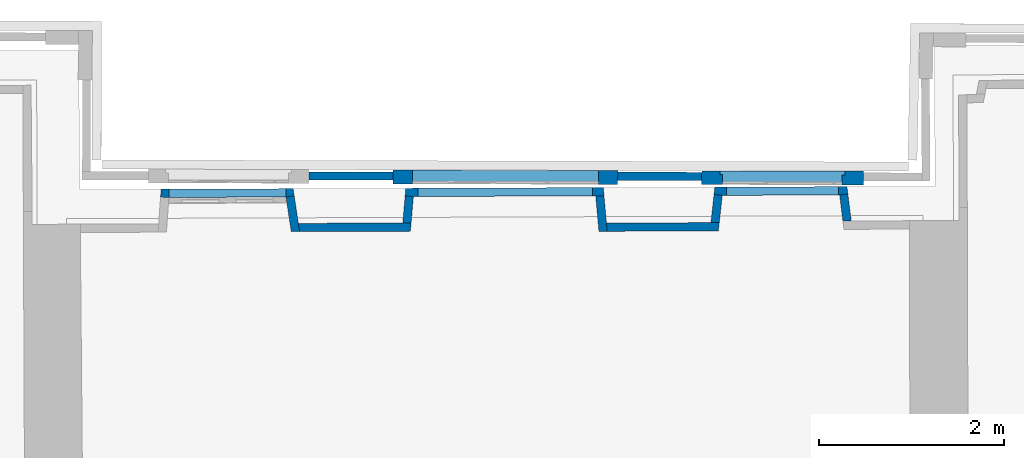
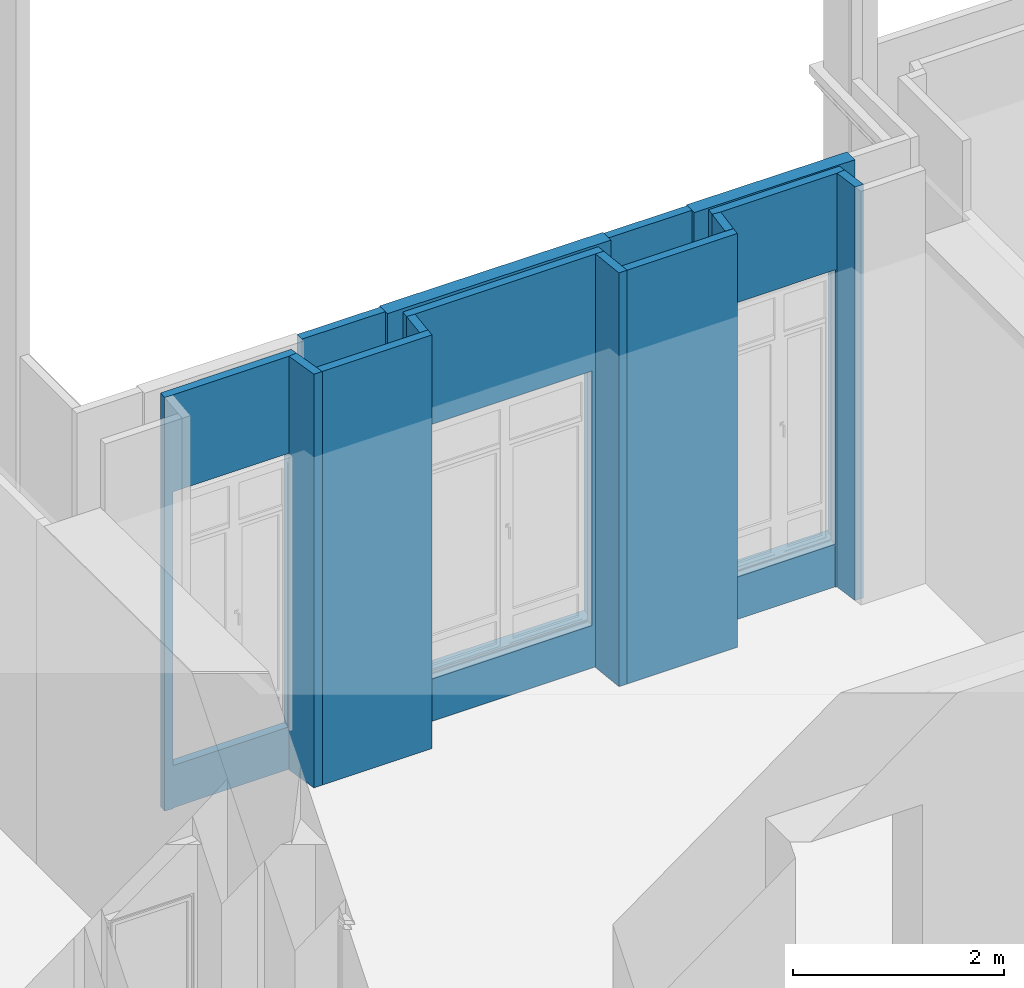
# One storey, part 22 of 97: 14 walls, 8 openings.
"""IFC2X3 building model written with IfcOpenShell, lengths in centimetres."""

from ifc_helpers import new_model, entity, si_unit, converted_unit, point, direction, frame, frame_2d, origin, origin_with_axes, origin_2d_with_axis, place, context, subcontext, project, spatial, polyline, circle_curve, trimmed, segment, composite_curve, rectangle, outline, extrude, faceted_brep, shape, material, layer, layer_set, layer_usage, type_object, element, save


model = new_model("IFC2X3")

# Units and contexts
model_context = context("Model", 3, precision=0.0001, world=origin(), true_north=direction((0.225632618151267, 0.974212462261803, 0.0)))
body_context = subcontext(model_context, "Body", "Model", "MODEL_VIEW")
footprint_context = subcontext(model_context, "FootPrint", "Model", "MODEL_VIEW")
profile_context = subcontext(model_context, "Profile", "Model", "MODEL_VIEW")
ifc_project = project(units=[si_unit("LENGTHUNIT", "METRE", prefix="CENTI"), si_unit("AREAUNIT", "SQUARE_METRE", prefix="CENTI"), si_unit("VOLUMEUNIT", "CUBIC_METRE", prefix="CENTI"), converted_unit("PLANEANGLEUNIT", "DEGREE", entity("IfcRatioMeasure", 0.0174532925), si_unit("PLANEANGLEUNIT", "RADIAN"), dimensions=[0, 0, 0, 0, 0, 0, 0])], contexts=[model_context])

# Site, building, storey
site_placement = place(None, origin_with_axes())
site = spatial("IfcSite", under=ifc_project, at=site_placement, Name="Default Site", CompositionType="ELEMENT")
building_placement = place(site_placement, origin_with_axes())
building = spatial("IfcBuilding", under=site, at=building_placement, Name="Default Building", CompositionType="ELEMENT")
storey_placement = place(building_placement, origin_with_axes())
storey = spatial("IfcBuildingStorey", under=building, at=storey_placement, Name="Rez-de-chaussée", CompositionType="ELEMENT", Elevation=0.0)

# Walls
ifc_material = material(Name="<aucun>")
ifc_layer_1 = layer(ifc_material, 9.0)
ifc_layer_set_1 = layer_set([ifc_layer_1], Name="default")
ifc_layer_usage_1 = layer_usage(ifc_layer_set_1, "AXIS2", "POSITIVE", -4.5)
wall_type_1 = type_object("IfcWallType", Name="default 90", PredefinedType="NOTDEFINED", material=ifc_layer_set_1)
wall_1_placement = place(storey_placement, frame((-325.938679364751, 605.444639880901, 0.0128503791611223), z_axis=(0.0, 0.0, 1.0), x_axis=(-0.999999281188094, 0.00119900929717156, 0.0)))
element("IfcWallStandardCase", 1, at=wall_1_placement, inside=storey, type_object=wall_type_1, material=ifc_layer_usage_1, Name="Enveloppe 370044", context=body_context, shape_type="SweptSolid", body=[
    extrude(outline(polyline([(90.9075974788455, 4.49999999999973), (0.0082405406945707, 4.49999974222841), (-0.00134384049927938, -4.49999999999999), (90.8935367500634, -4.50000000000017), (90.9075974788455, 4.49999999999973)])), origin_with_axes(), (0.0, 0.0, 1.0), 477.795358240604),
])
ifc_layer_usage_2 = layer_usage(ifc_layer_set_1, "AXIS2", "POSITIVE", -4.5)
wall_2_placement = place(storey_placement, frame((8.86628311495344, 605.018041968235, 0.0128503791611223), z_axis=(0.0, 0.0, 1.0), x_axis=(-0.999997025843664, 0.00243891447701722, 0.0)))
element("IfcWallStandardCase", 2, at=wall_2_placement, inside=storey, type_object=wall_type_1, material=ifc_layer_usage_2, Name="Enveloppe 369919", context=body_context, shape_type="SweptSolid", body=[
    extrude(rectangle(XDim=9.00000010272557, YDim=91.0169583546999, at=origin_2d_with_axis()), frame((45.5418360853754, 0.0, 0.0), z_axis=(0.0, 0.0, 1.0), x_axis=(0.000151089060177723, -0.999999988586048, 0.0)), (0.0, 0.0, 1.0), 477.795358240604),
])
ifc_layer_usage_3 = layer_usage(ifc_layer_set_1, "AXIS2", "POSITIVE", -4.5)
wall_3_placement = place(storey_placement, frame((-435.988261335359, 549.651950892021, 0.0128503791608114), z_axis=(0.0, 0.0, 1.0), x_axis=(0.9999931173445, 0.00371015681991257, 0.0)))
element("IfcWallStandardCase", 3, at=wall_3_placement, inside=storey, type_object=wall_type_1, material=ifc_layer_usage_3, Name="Enveloppe 668917", context=body_context, shape_type="SweptSolid", body=[
    extrude(outline(polyline([(7.71494590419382, 4.50000000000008), (9.03934442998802, -4.49999999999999), (129.113402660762, -4.50000000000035), (129.922102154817, 4.49999999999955), (7.71494590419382, 4.50000000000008)])), origin_with_axes(), (0.0, 0.0, 1.0), 477.795358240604),
])
ifc_layer_usage_4 = layer_usage(ifc_layer_set_1, "AXIS2", "POSITIVE", -4.5)
wall_4_placement = place(storey_placement, frame((-311.343406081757, 546.006095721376, 0.0128503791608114), z_axis=(0.0, 0.0, 1.0), x_axis=(0.0857990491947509, 0.996312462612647, 0.0)))
element("IfcWallStandardCase", 4, at=wall_4_placement, inside=storey, type_object=wall_type_1, material=ifc_layer_usage_4, Name="Enveloppe 668972", context=body_context, shape_type="SweptSolid", body=[
    extrude(outline(polyline([(8.2386141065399, 4.49999999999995), (9.04731360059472, -4.50000000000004), (37.7467552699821, -4.49999999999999), (37.6477472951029, -3.3984032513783), (37.6477472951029, 4.49999999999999), (8.2386141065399, 4.49999999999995)])), frame((0.0, 0.0, 2.71050543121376e-18), z_axis=(0.0, 0.0, 1.0), x_axis=(1.0, 0.0, 0.0)), (0.0, 0.0, 1.0), 477.795358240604),
])
ifc_layer_usage_5 = layer_usage(ifc_layer_set_1, "AXIS2", "POSITIVE", -4.5)
wall_5_placement = place(storey_placement, frame((-431.515493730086, 545.399050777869, 0.0128503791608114), z_axis=(0.0, 0.0, 1.0), x_axis=(-0.14925713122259, 0.988798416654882, 0.0)))
element("IfcWallStandardCase", 5, at=wall_5_placement, inside=storey, type_object=wall_type_1, material=ifc_layer_usage_5, Name="Enveloppe 668710", context=body_context, shape_type="SweptSolid", body=[
    extrude(outline(polyline([(38.4152726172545, 4.50000000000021), (0.429182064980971, 4.50000000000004), (-0.895216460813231, -4.49999999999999), (38.4152726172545, -4.49999999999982), (38.4152726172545, 4.50000000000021)])), origin_with_axes(), (0.0, 0.0, 1.0), 477.795358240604),
])

# Wall, openings
ifc_layer_usage_6 = layer_usage(ifc_layer_set_1, "AXIS2", "POSITIVE", -4.5)
wall_6_placement = place(storey_placement, frame((-572.815519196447, 586.72315028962, 0.0128503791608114), z_axis=(0.0, 0.0, 1.0), x_axis=(0.999993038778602, 0.00373127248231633, 0.0)))
wall_6 = element("IfcWallStandardCase", 6, at=wall_6_placement, inside=storey, type_object=wall_type_1, material=ifc_layer_usage_6, Name="Enveloppe 668711", context=body_context, shape_type="SweptSolid", body=[
    extrude(outline(polyline([(-4.81159467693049, -4.03329353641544), (1.48787861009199, -4.50000000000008), (131.100801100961, -4.49999999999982), (140.004937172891, -3.18990045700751), (138.873492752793, 4.50000000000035), (-4.17846649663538, 4.49999999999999), (-4.81159467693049, -4.03329353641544)])), origin_with_axes(), (0.0, 0.0, 1.0), 477.795358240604),
])
opening_1_placement = place(wall_6_placement, frame((4.39011683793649, -1.13686837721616e-13, 8.32684615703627e-14), z_axis=(0.0, 0.0, 1.0), x_axis=(-1.0, -2.23172175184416e-15, 0.0)))
cartesian_point_1 = entity("IfcCartesianPoint", [0.0, -8.88178419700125e-14, 48.5])
cartesian_point_2 = entity("IfcCartesianPoint", [-129.157241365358, -4.49999999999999])
element("IfcOpeningElement", 7, at=opening_1_placement, cuts=wall_6, Name="Baie 30038", ObjectType="Recess", shapes=[
    shape(body_context, "Body", "Brep", [faceted_brep([(-9.45402627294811e-06, 24.5000070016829, -4.62691007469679e-10), (-129.157259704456, 24.5000070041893, -4.62691007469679e-10), (-129.157259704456, 24.5000070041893, 48.4999988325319), (-9.45402627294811e-06, 24.5000070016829, 48.4999988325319), (-9.45443379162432e-06, 3.50000009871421, 48.4999988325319), (-9.45443379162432e-06, 3.50000009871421, -4.62691007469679e-10), (-2.18569054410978e-05, 3.50000009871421, -4.62691007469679e-10), (-129.157224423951, 3.49998149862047, -4.62691007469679e-10), (-129.157259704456, 24.49998857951, -4.62691007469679e-10), (-129.157259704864, 3.49998149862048, -4.62691007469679e-10), (-129.157259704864, 3.49998149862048, 48.4999988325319), (-129.157259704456, 24.49998857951, 48.4999988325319), (-129.157224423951, 3.49998149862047, 48.4999988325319), (-2.18569054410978e-05, 3.50000009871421, 48.4999988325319), (-2.18569054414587e-05, 3.4999814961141, -4.62691007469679e-10), (-2.18569054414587e-05, 3.4999814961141, 48.4999988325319)], [[[0, 1, 2, 3]], [[3, 4, 5, 0]], [[0, 6, 7, 8]], [[8, 9, 10, 11]], [[11, 12, 13, 3]], [[12, 7, 14, 15]]])]),
    shape(profile_context, "Profile", "GeometricCurveSet", [entity("IfcGeometricCurveSet", [entity("IfcPolyline", [cartesian_point_1, entity("IfcCartesianPoint", [0.0, -8.88178419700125e-14, -5.42101086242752e-18]), entity("IfcCartesianPoint", [-129.157241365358, 0.0, -5.42101086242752e-18]), entity("IfcCartesianPoint", [-129.157241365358, 0.0, 48.5]), cartesian_point_1])])]),
    shape(footprint_context, "FootPrint", "GeometricCurveSet", [entity("IfcGeometricCurveSet", [entity("IfcPolyline", [cartesian_point_2, entity("IfcCartesianPoint", [8.88178419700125e-14, -4.50000000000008]), entity("IfcCartesianPoint", [8.88178419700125e-14, 4.49999999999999]), entity("IfcCartesianPoint", [-129.157241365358, 4.50000000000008]), cartesian_point_2])])]),
])
opening_2_placement = place(wall_6_placement, frame((4.39011683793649, -1.13686837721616e-13, 49.8226471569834), z_axis=(0.0, 0.0, 1.0), x_axis=(-1.0, -2.23172175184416e-15, 0.0)))
cartesian_point_3 = entity("IfcCartesianPoint", [0.0, -8.88178419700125e-14, 316.0])
cartesian_point_4 = entity("IfcCartesianPoint", [-126.68846796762, -4.50000000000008])
element("IfcOpeningElement", 8, at=opening_2_placement, cuts=wall_6, Name="4294966448_11", ObjectType="Opening", shapes=[
    shape(body_context, "Body", "SweptSolid", [extrude(outline(polyline([(0.0, 316.0), (0.0, 0.0), (126.68846796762, 0.0), (126.68846796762, 316.0), (0.0, 316.0)])), frame((0.0, -14.5, 0.0), z_axis=(0.0, 1.0, 0.0), x_axis=(-1.0, 0.0, 0.0)), (0.0, 0.0, 1.0), 29.0)]),
    shape(profile_context, "Profile", "GeometricCurveSet", [entity("IfcGeometricCurveSet", [entity("IfcPolyline", [cartesian_point_3, entity("IfcCartesianPoint", [0.0, -8.88178419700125e-14, 0.0]), entity("IfcCartesianPoint", [-126.68846796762, 0.0, 0.0]), entity("IfcCartesianPoint", [-126.68846796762, 0.0, 316.0]), cartesian_point_3])])]),
    shape(footprint_context, "FootPrint", "GeometricCurveSet", [entity("IfcGeometricCurveSet", [entity("IfcPolyline", [cartesian_point_4, entity("IfcCartesianPoint", [0.0, -4.50000000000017]), entity("IfcCartesianPoint", [0.0, 4.4999999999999]), entity("IfcCartesianPoint", [-126.68846796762, 4.49999999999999]), cartesian_point_4])])]),
])

ifc_layer_usage_7 = layer_usage(ifc_layer_set_1, "AXIS2", "POSITIVE", -4.5)
wall_7_placement = place(storey_placement, frame((-307.751819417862, 587.712182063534, 0.0128503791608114), z_axis=(0.0, 0.0, 1.0), x_axis=(0.999993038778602, 0.00373127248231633, 0.0)))
wall_7 = element("IfcWallStandardCase", 9, at=wall_7_placement, inside=storey, type_object=wall_type_1, material=ifc_layer_usage_7, Name="Enveloppe 669420", context=body_context, shape_type="SweptSolid", body=[
    extrude(outline(polyline([(-4.85903824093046, -3.79296680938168), (3.00765598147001, -4.49999999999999), (210.685028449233, -4.49999999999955), (209.905498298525, 4.50000000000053), (-4.11369304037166, 4.50000000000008), (-4.85903824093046, -3.79296680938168)])), frame((0.0, 0.0, 2.71050543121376e-18), z_axis=(0.0, 0.0, 1.0), x_axis=(1.0, 0.0, 0.0)), (0.0, 0.0, 1.0), 477.795358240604),
])
opening_3_placement = place(wall_7_placement, frame((4.8724148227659, 0.0, 9.43706918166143e-14), z_axis=(0.0, 0.0, 1.0), x_axis=(-1.0, -2.36789754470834e-15, 0.0)))
cartesian_point_5 = entity("IfcCartesianPoint", [0.0, 0.0, 48.5])
cartesian_point_6 = entity("IfcCartesianPoint", [-198.0, -4.50000000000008])
element("IfcOpeningElement", 10, at=opening_3_placement, cuts=wall_7, Name="Baie 30039", ObjectType="Recess", shapes=[
    shape(body_context, "Body", "Brep", [faceted_brep([(-3.08828354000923e-06, 24.5000184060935, -4.62702109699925e-10), (-198.000000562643, 24.5000184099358, -4.62702109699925e-10), (-198.000000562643, 24.5000184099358, 48.4999988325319), (-3.08828354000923e-06, 24.5000184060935, 48.4999988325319), (-3.08869106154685e-06, 3.50001141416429, 48.4999988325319), (-3.08869106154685e-06, 3.50001141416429, -4.62702109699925e-10), (8.35052929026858e-06, 3.50001141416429, -4.62702109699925e-10), (-198.000001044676, 3.4999919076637, -4.62702109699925e-10), (-198.000000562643, 24.4999988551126, -4.62702109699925e-10), (-198.00000056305, 3.4999919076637, -4.62702109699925e-10), (-198.00000056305, 3.4999919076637, 48.4999988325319), (-198.000000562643, 24.4999988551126, 48.4999988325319), (-198.000001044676, 3.4999919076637, 48.4999988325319), (8.35052929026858e-06, 3.50001141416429, 48.4999988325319), (8.35052928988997e-06, 3.49999190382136, -4.62702109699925e-10), (8.35052928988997e-06, 3.49999190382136, 48.4999988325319)], [[[0, 1, 2, 3]], [[3, 4, 5, 0]], [[0, 6, 7, 8]], [[8, 9, 10, 11]], [[11, 12, 13, 3]], [[12, 7, 14, 15]]])]),
    shape(profile_context, "Profile", "GeometricCurveSet", [entity("IfcGeometricCurveSet", [entity("IfcPolyline", [cartesian_point_5, entity("IfcCartesianPoint", [0.0, 0.0, -5.42101086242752e-18]), entity("IfcCartesianPoint", [-198.0, 0.0, -5.42101086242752e-18]), entity("IfcCartesianPoint", [-198.0, 0.0, 48.5]), cartesian_point_5])])]),
    shape(footprint_context, "FootPrint", "GeometricCurveSet", [entity("IfcGeometricCurveSet", [entity("IfcPolyline", [cartesian_point_6, entity("IfcCartesianPoint", [0.0, -4.49999999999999]), entity("IfcCartesianPoint", [0.0, 4.50000000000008]), entity("IfcCartesianPoint", [-198.0, 4.50000000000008]), cartesian_point_6])])]),
])
opening_4_placement = place(wall_7_placement, frame((8.97018832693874, 1.13686837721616e-13, 49.8226471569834), z_axis=(0.0, 0.0, 1.0), x_axis=(-1.0, -2.36789754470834e-15, 0.0)))
cartesian_point_7 = entity("IfcCartesianPoint", [0.0, 0.0, 294.0])
cartesian_point_8 = entity("IfcCartesianPoint", [-189.020783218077, -4.49999999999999])
element("IfcOpeningElement", 11, at=opening_4_placement, cuts=wall_7, Name="4294966447_11", ObjectType="Opening", shapes=[
    shape(body_context, "Body", "SweptSolid", [extrude(outline(polyline([(0.0, 294.0), (0.0, 0.0), (189.020783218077, 0.0), (189.020783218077, 294.0), (0.0, 294.0)])), frame((0.0, -14.5, 0.0), z_axis=(0.0, 1.0, 0.0), x_axis=(-1.0, 0.0, 0.0)), (0.0, 0.0, 1.0), 29.0)]),
    shape(profile_context, "Profile", "GeometricCurveSet", [entity("IfcGeometricCurveSet", [entity("IfcPolyline", [cartesian_point_7, entity("IfcCartesianPoint", [0.0, 0.0, 0.0]), entity("IfcCartesianPoint", [-189.020783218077, 8.88178419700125e-14, 0.0]), entity("IfcCartesianPoint", [-189.020783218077, 8.88178419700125e-14, 294.0]), cartesian_point_7])])]),
    shape(footprint_context, "FootPrint", "GeometricCurveSet", [entity("IfcGeometricCurveSet", [entity("IfcPolyline", [cartesian_point_8, entity("IfcCartesianPoint", [0.0, -4.50000000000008]), entity("IfcCartesianPoint", [4.44089209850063e-14, 4.49999999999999]), entity("IfcCartesianPoint", [-189.020783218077, 4.50000000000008]), cartesian_point_8])])]),
])

# Walls
ifc_layer_usage_8 = layer_usage(ifc_layer_set_1, "AXIS2", "POSITIVE", -4.5)
wall_8_placement = place(storey_placement, frame((-102.623846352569, 550.039978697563, 0.0128503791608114), z_axis=(0.0, 0.0, 1.0), x_axis=(0.999995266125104, 0.00307696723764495, 0.0)))
element("IfcWallStandardCase", 12, at=wall_8_placement, inside=storey, type_object=wall_type_1, material=ifc_layer_usage_8, Name="Enveloppe 669589", context=body_context, shape_type="SweptSolid", body=[
    extrude(outline(polyline([(8.2462718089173, 4.4999999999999), (9.03173525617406, -4.4999999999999), (129.430023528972, -4.49999999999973), (130.457929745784, 4.49999999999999), (8.2462718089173, 4.4999999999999)])), frame((0.0, 0.0, -2.71050543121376e-18), z_axis=(0.0, 0.0, 1.0), x_axis=(1.0, 0.0, 0.0)), (0.0, 0.0, 1.0), 477.795358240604),
])
ifc_layer_usage_9 = layer_usage(ifc_layer_set_1, "AXIS2", "POSITIVE", -4.5)
wall_9_placement = place(storey_placement, frame((-98.1310539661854, 545.948500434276, 0.0128503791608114), z_axis=(0.0, 0.0, 1.0), x_axis=(-0.0900081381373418, 0.995941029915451, 0.0)))
element("IfcWallStandardCase", 13, at=wall_9_placement, inside=storey, type_object=wall_type_1, material=ifc_layer_usage_9, Name="Enveloppe 669265", context=body_context, shape_type="SweptSolid", body=[
    extrude(outline(polyline([(38.577751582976, 4.5000000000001), (-0.00348557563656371, 4.50000000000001), (-0.788949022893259, -4.49999999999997), (37.7982214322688, -4.4999999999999), (38.577751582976, 4.5000000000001)])), origin_with_axes(), (0.0, 0.0, 1.0), 477.795358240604),
])
ifc_layer_usage_10 = layer_usage(ifc_layer_set_1, "AXIS2", "POSITIVE", -4.5)
wall_10_placement = place(storey_placement, frame((22.3471206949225, 546.436874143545, 0.0128503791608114), z_axis=(0.0, 0.0, 1.0), x_axis=(0.110416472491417, 0.99388540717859, 0.0)))
element("IfcWallStandardCase", 14, at=wall_10_placement, inside=storey, type_object=wall_type_1, material=ifc_layer_usage_10, Name="Enveloppe 669642", context=body_context, shape_type="SweptSolid", body=[
    extrude(outline(polyline([(8.02884427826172, 4.50000000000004), (9.05675049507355, -4.49999999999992), (38.7735959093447, -4.49999999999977), (38.7735959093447, 4.50000000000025), (8.02884427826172, 4.50000000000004)])), origin_with_axes(), (0.0, 0.0, 1.0), 477.795358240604),
])
ifc_layer_usage_11 = layer_usage(ifc_layer_set_1, "AXIS2", "POSITIVE", -4.5)
wall_11_placement = place(storey_placement, frame((167.39368513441, 547.943883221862, 0.0128503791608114), z_axis=(0.0, 0.0, 1.0), x_axis=(-0.123127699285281, 0.992390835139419, 0.0)))
element("IfcWallStandardCase", 15, at=wall_11_placement, inside=storey, type_object=wall_type_1, material=ifc_layer_usage_11, Name="Enveloppe 669856", context=body_context, shape_type="SweptSolid", body=[
    extrude(outline(polyline([(37.8492006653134, 4.4999999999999), (9.30470241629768, 4.49999999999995), (8.24163741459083, -4.49999999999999), (37.8492006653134, -4.50000000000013), (37.8492006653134, 4.4999999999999)])), origin_with_axes(), (0.0, 0.0, 1.0), 477.795358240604),
])

# Wall, openings
ifc_layer_usage_12 = layer_usage(ifc_layer_set_1, "AXIS2", "POSITIVE", -4.5)
wall_12_placement = place(storey_placement, frame((27.0714279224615, 588.961507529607, 0.0128503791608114), z_axis=(0.0, 0.0, 1.0), x_axis=(0.999993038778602, 0.0037312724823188, 0.0)))
wall_12 = element("IfcWallStandardCase", 16, at=wall_12_placement, inside=storey, type_object=wall_type_1, material=ifc_layer_usage_12, Name="Enveloppe 669857", context=body_context, shape_type="SweptSolid", body=[
    extrude(outline(polyline([(-4.92854045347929, -3.47288254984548), (4.01265799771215, -4.50000000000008), (131.180335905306, -4.4999999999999), (140.115926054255, -3.4251843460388), (139.162646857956, 4.50000000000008), (-4.01265799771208, 4.50000000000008), (-4.92854045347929, -3.47288254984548)])), frame((0.0, 0.0, 5.42101086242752e-18), z_axis=(0.0, 0.0, 1.0), x_axis=(1.0, 0.0, 0.0)), (0.0, 0.0, 1.0), 477.795358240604),
])
opening_5_placement = place(wall_12_placement, frame((8.65726307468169, 1.13686837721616e-13, 8.88195766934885e-14), z_axis=(0.0, 0.0, 1.0), x_axis=(-1.0, 8.06646416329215e-17, 0.0)))
cartesian_point_9 = entity("IfcCartesianPoint", [0.0, 0.0, 48.5])
cartesian_point_10 = entity("IfcCartesianPoint", [-121.149203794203, -4.50000000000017])
element("IfcOpeningElement", 17, at=opening_5_placement, cuts=wall_12, Name="Baie 30040", ObjectType="Recess", shapes=[
    shape(body_context, "Body", "Brep", [faceted_brep([(8.06049327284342e-07, 24.4999907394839, -4.62696553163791e-10), (-121.149199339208, 24.4999907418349, -4.62696553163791e-10), (-121.149199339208, 24.4999907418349, 48.4999988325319), (8.06049327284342e-07, 24.4999907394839, 48.4999988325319), (8.05641805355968e-07, 3.499983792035, 48.4999988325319), (8.05641805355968e-07, 3.499983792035, -4.62696553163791e-10), (3.24016175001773e-07, 3.499983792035, -4.62696553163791e-10), (-121.149199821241, 3.49998284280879, -4.62696553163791e-10), (-121.149199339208, 24.4999897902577, -4.62696553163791e-10), (-121.149199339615, 3.49998284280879, -4.62696553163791e-10), (-121.149199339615, 3.49998284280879, 48.4999988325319), (-121.149199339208, 24.4999897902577, 48.4999988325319), (-121.149199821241, 3.49998284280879, 48.4999988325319), (3.24016175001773e-07, 3.499983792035, 48.4999988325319), (3.24016174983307e-07, 3.49998284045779, -4.62696553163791e-10), (3.24016174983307e-07, 3.49998284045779, 48.4999988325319)], [[[0, 1, 2, 3]], [[3, 4, 5, 0]], [[0, 6, 7, 8]], [[8, 9, 10, 11]], [[11, 12, 13, 3]], [[12, 7, 14, 15]]])]),
    shape(profile_context, "Profile", "GeometricCurveSet", [entity("IfcGeometricCurveSet", [entity("IfcPolyline", [cartesian_point_9, entity("IfcCartesianPoint", [0.0, 0.0, 0.0]), entity("IfcCartesianPoint", [-121.149203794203, -8.88178419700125e-14, 0.0]), entity("IfcCartesianPoint", [-121.149203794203, -8.88178419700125e-14, 48.5]), cartesian_point_9])])]),
    shape(footprint_context, "FootPrint", "GeometricCurveSet", [entity("IfcGeometricCurveSet", [entity("IfcPolyline", [cartesian_point_10, entity("IfcCartesianPoint", [0.0, -4.50000000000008]), entity("IfcCartesianPoint", [5.55111512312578e-15, 4.49999999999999]), entity("IfcCartesianPoint", [-121.149203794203, 4.49999999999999]), cartesian_point_10])])]),
])
opening_6_placement = place(wall_12_placement, frame((8.65726307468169, 1.13686837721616e-13, 49.8226471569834), z_axis=(0.0, 0.0, 1.0), x_axis=(-1.0, 8.06646416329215e-17, 0.0)))
cartesian_point_11 = entity("IfcCartesianPoint", [0.0, 0.0, 317.0])
cartesian_point_12 = entity("IfcCartesianPoint", [-121.149203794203, -4.50000000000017])
element("IfcOpeningElement", 18, at=opening_6_placement, cuts=wall_12, Name="4294966450_11", ObjectType="Opening", shapes=[
    shape(body_context, "Body", "SweptSolid", [extrude(outline(polyline([(0.0, 317.0), (0.0, 0.0), (121.149203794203, 0.0), (121.149203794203, 317.0), (0.0, 317.0)])), frame((0.0, -14.5, 0.0), z_axis=(0.0, 1.0, 0.0), x_axis=(-1.0, 0.0, 0.0)), (0.0, 0.0, 1.0), 29.0)]),
    shape(profile_context, "Profile", "GeometricCurveSet", [entity("IfcGeometricCurveSet", [entity("IfcPolyline", [cartesian_point_11, entity("IfcCartesianPoint", [0.0, 0.0, 0.0]), entity("IfcCartesianPoint", [-121.149203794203, -8.88178419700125e-14, 0.0]), entity("IfcCartesianPoint", [-121.149203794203, -8.88178419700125e-14, 317.0]), cartesian_point_11])])]),
    shape(footprint_context, "FootPrint", "GeometricCurveSet", [entity("IfcGeometricCurveSet", [entity("IfcPolyline", [cartesian_point_12, entity("IfcCartesianPoint", [0.0, -4.50000000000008]), entity("IfcCartesianPoint", [5.55111512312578e-15, 4.49999999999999]), entity("IfcCartesianPoint", [-121.149203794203, 4.49999999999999]), cartesian_point_12])])]),
])

# Wall, opening
ifc_layer_2 = layer(ifc_material, 15.0)
ifc_layer_set_2 = layer_set([ifc_layer_2], Name="default")
ifc_layer_usage_13 = layer_usage(ifc_layer_set_2, "AXIS2", "POSITIVE", -7.5)
wall_type_2 = type_object("IfcWallType", Name="default 150", PredefinedType="NOTDEFINED", material=ifc_layer_set_2)
wall_13_placement = place(storey_placement, frame((-82.18695670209, 603.843433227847, 0.0128503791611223), z_axis=(0.0, 0.0, 1.0), x_axis=(-0.999997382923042, 0.00228782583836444, 0.0)))
wall_13 = element("IfcWallStandardCase", 19, at=wall_13_placement, inside=storey, type_object=wall_type_2, material=ifc_layer_usage_13, Name="Enveloppe 373412", context=body_context, shape_type="SweptSolid", body=[
    extrude(rectangle(XDim=14.9999999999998, YDim=243.758303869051, at=origin_2d_with_axis()), frame((121.879151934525, 0.0, -2.71050543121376e-18), z_axis=(0.0, 0.0, 1.0), x_axis=(-2.73218947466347e-17, -1.0, 0.0)), (0.0, 0.0, 1.0), 477.795358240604),
])
opening_7_placement = place(wall_13_placement, frame((20.6434306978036, 1.13686837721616e-13, 48.5871496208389), z_axis=(0.0, 0.0, 1.0), x_axis=(-1.0, -2.73652628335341e-16, 0.0)))
cartesian_point_13 = entity("IfcCartesianPoint", [-2.22044604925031e-14, 0.0, 317.921112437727])
cartesian_point_14 = entity("IfcCartesianPoint", [-201.818350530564, -8.88178419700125e-14, 317.921112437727])
cartesian_point_15 = entity("IfcCartesianPoint", [-201.818350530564, -7.50000000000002])
element("IfcOpeningElement", 20, at=opening_7_placement, cuts=wall_13, Name="Baie 379481", ObjectType="Opening", shapes=[
    shape(body_context, "Body", "SweptSolid", [extrude(outline(composite_curve([segment(polyline([(2.22044604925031e-14, 317.921112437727), (0.0, 5.55111512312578e-15), (201.818350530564, 5.55111512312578e-15), (201.818350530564, 317.921112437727)]), True, "CONTINUOUS"), segment(trimmed(circle_curve(frame_2d((100.909175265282, 126.791038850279), x_axis=(1.0, 0.0)), 216.132752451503), [point((201.818350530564, 317.921112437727))], [point((2.22044604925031e-14, 317.921112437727))], True, "CARTESIAN"), True, "CONTINUOUS")], self_intersect=False)), frame((0.0, -17.5, 0.0), z_axis=(0.0, 1.0, 0.0), x_axis=(-1.0, 0.0, 0.0)), (0.0, 0.0, 1.0), 35.0)]),
    shape(profile_context, "Profile", "GeometricCurveSet", [entity("IfcGeometricCurveSet", [entity("IfcCompositeCurve", [entity("IfcCompositeCurveSegment", "CONTINUOUS", True, entity("IfcPolyline", [cartesian_point_13, entity("IfcCartesianPoint", [0.0, 0.0, 5.55111512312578e-15]), entity("IfcCartesianPoint", [-201.818350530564, -8.88178419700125e-14, 5.55111512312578e-15]), cartesian_point_14])), entity("IfcCompositeCurveSegment", "CONTINUOUS", True, entity("IfcTrimmedCurve", entity("IfcCircle", entity("IfcAxis2Placement3D", entity("IfcCartesianPoint", [-100.909175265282, 0.0, 126.791038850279]), entity("IfcDirection", [-4.40088038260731e-16, 1.0, -1.77616651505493e-15]), entity("IfcDirection", [1.0, 4.40088038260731e-16, 0.0])), 216.132752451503), [cartesian_point_14], [cartesian_point_13], True, "CARTESIAN"))], False)])]),
    shape(footprint_context, "FootPrint", "GeometricCurveSet", [entity("IfcGeometricCurveSet", [entity("IfcPolyline", [cartesian_point_15, entity("IfcCartesianPoint", [0.0, -7.50000000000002]), entity("IfcCartesianPoint", [0.0, 7.50000000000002]), entity("IfcCartesianPoint", [-201.818350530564, 7.49999999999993]), cartesian_point_15])])]),
])

ifc_layer_usage_14 = layer_usage(ifc_layer_set_2, "AXIS2", "POSITIVE", -7.5)
wall_14_placement = place(storey_placement, frame((184.029074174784, 603.23437571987, 0.0128503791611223), z_axis=(0.0, 0.0, 1.0), x_axis=(-0.999997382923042, 0.00228782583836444, 0.0)))
wall_14 = element("IfcWallStandardCase", 21, at=wall_14_placement, inside=storey, type_object=wall_type_2, material=ifc_layer_usage_14, Name="Enveloppe 373229", context=body_context, shape_type="SweptSolid", body=[
    extrude(rectangle(XDim=14.9999999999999, YDim=175.199770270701, at=origin_2d_with_axis()), frame((87.5998851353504, 1.77635683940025e-13, -5.42101086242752e-18), z_axis=(0.0, 0.0, 1.0), x_axis=(-1.38777878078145e-17, -1.0, 0.0)), (0.0, 0.0, 1.0), 477.795358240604),
])
opening_8_placement = place(wall_14_placement, frame((20.129535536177, 0.0, 48.3862667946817), z_axis=(0.0, 0.0, 1.0), x_axis=(-1.0, -2.33320307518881e-16, 0.0)))
cartesian_point_16 = entity("IfcCartesianPoint", [-4.44089209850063e-14, 8.88178419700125e-14, 345.544261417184])
cartesian_point_17 = entity("IfcCartesianPoint", [-135.534020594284, -7.49999999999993])
element("IfcOpeningElement", 22, at=opening_8_placement, cuts=wall_14, Name="Baie 379480", ObjectType="Opening", shapes=[
    shape(body_context, "Body", "Brep", [faceted_brep([(-2.99999923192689, -27.5000105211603, 345.544264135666), (-132.534019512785, -27.5000105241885, 345.544264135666), (-132.534019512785, -27.5000105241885, 4.15154061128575e-07), (-2.99999923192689, -27.5000105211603, 4.15154061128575e-07), (7.03435465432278e-07, 27.5000064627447, 4.15154061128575e-07), (-135.534020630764, 27.5000064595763, 4.15154061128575e-07), (-135.534020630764, 27.5000064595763, 345.544264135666), (7.03435465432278e-07, 27.5000064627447, 345.544264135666), (-2.99999923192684, -27.5000105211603, 4.15154061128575e-07), (-2.99999923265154, 3.50001719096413, 4.15154061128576e-07), (-2.99999923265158, 3.50001719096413, 345.544264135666), (-3.00000428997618, 3.50001719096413, 345.544264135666), (-3.00000428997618, 3.50001719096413, 4.15154061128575e-07), (7.07030833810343e-07, 3.50001719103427, 4.15154061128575e-07), (7.07030833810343e-07, 3.50001719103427, 345.544264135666), (7.07030833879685e-07, 3.50001422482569, 345.544264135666), (7.07030878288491e-07, 3.50001422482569, 4.15154061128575e-07), (7.06469824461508e-07, 27.5000064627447, 4.15154061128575e-07), (7.06469780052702e-07, 27.5000064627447, 345.544264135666), (-132.534019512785, -27.500007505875, 4.15154061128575e-07), (-132.53402159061, 3.50002021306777, 4.15154061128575e-07), (-135.534020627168, 3.50002319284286, 4.15154061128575e-07), (-135.534020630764, 27.5000154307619, 4.15154061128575e-07), (7.07030833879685e-07, 3.50001422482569, 4.15154061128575e-07), (-132.534019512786, -27.500007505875, 345.544264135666), (-132.53401951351, 3.50002021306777, 345.544264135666), (-132.53401951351, 3.50002021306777, 4.15154061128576e-07), (-132.53402159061, 3.50002021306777, 345.544264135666), (-135.534020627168, 3.50002021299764, 345.544264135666), (-135.534020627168, 3.50002021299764, 4.15154061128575e-07), (-135.534020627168, 3.50002319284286, 345.544264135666), (-135.53402062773, 27.5000154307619, 345.544264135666), (-135.534020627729, 27.5000154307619, 4.15154061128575e-07), (-135.534020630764, 27.5000154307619, 345.544264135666), (-132.534019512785, -27.500007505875, 345.544264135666)], [[[0, 1, 2, 3]], [[4, 5, 6, 7]], [[0, 8, 9, 10]], [[11, 12, 13, 14]], [[15, 16, 17, 18]], [[3, 19, 20, 21, 22, 4, 23, 12]], [[19, 24, 25, 26]], [[20, 27, 28, 29]], [[21, 30, 31, 32]], [[11, 15, 7, 33, 30, 27, 34, 0]]])]),
    shape(profile_context, "Profile", "GeometricCurveSet", [entity("IfcGeometricCurveSet", [entity("IfcPolyline", [cartesian_point_16, entity("IfcCartesianPoint", [0.0, 8.88178419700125e-14, -5.55111512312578e-15]), entity("IfcCartesianPoint", [-135.534020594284, 8.88178419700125e-14, -5.55111512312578e-15]), entity("IfcCartesianPoint", [-135.534020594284, 8.88178419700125e-14, 345.544261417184]), cartesian_point_16])])]),
    shape(footprint_context, "FootPrint", "GeometricCurveSet", [entity("IfcGeometricCurveSet", [entity("IfcPolyline", [cartesian_point_17, entity("IfcCartesianPoint", [0.0, -7.49999999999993]), entity("IfcCartesianPoint", [0.0, 7.50000000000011]), entity("IfcCartesianPoint", [-135.534020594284, 7.50000000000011]), cartesian_point_17])])]),
])

save(model, "model.ifc")
